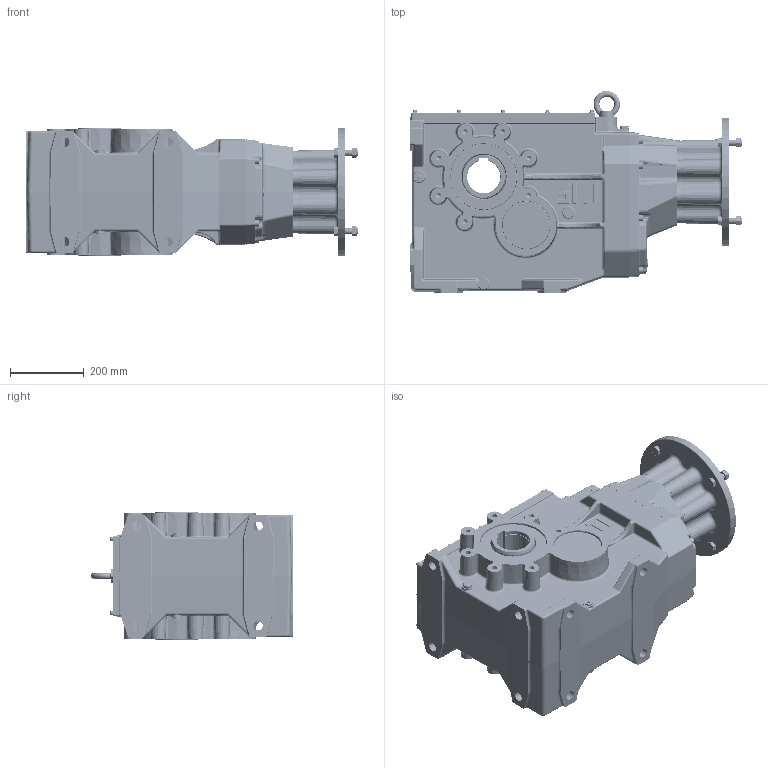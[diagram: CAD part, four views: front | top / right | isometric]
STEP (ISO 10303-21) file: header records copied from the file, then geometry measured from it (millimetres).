
FILE_DESCRIPTION((''),'2;1');
FILE_NAME('O:\Figurini\Figurini BH\3D\160\MBHGC 160 C GR 180 B5.stp','2013-05-20T10:31:36',('d.iannaccio'),(''),'Autodesk Inventor 2012','Autodesk Inventor 2012','');
FILE_SCHEMA(('AUTOMOTIVE_DESIGN { 1 0 10303 214 1 1 1 1 }'));
Length unit declared in the file: millimetre
Products named in the file (1): MBHGC_160 C GR 180 B5
Bounding box: 901 x 547.98 x 350 mm (x, y, z)
Volume: 26121352.7 mm3; surface area: 3792891.1 mm2
Topology: 66 solids, 68 shells, 4427 faces, 10591 edges, 6281 vertices
Faces by surface type: cylinder 1252, plane 1190, bspline 818, cone 539, torus 521, sphere 107
Full cylindrical faces by diameter (mm): 1.5 x1, 3.15 x2, 3.5 x2, 4.917 x12, 6 x24, 6.4 x12, 6.647 x1, 7 x12, 8 x1, 10 x12, 10.106 x16, 11 x2, 12 x30, 12.5 x14, 13 x16, 13.835 x14, 14.95 x8, 16 x8, 17.294 x3, 18 x16, 18.5 x4, 20.5 x16, 22 x1, 22.49 x4, 24 x1, 25 x1, 25.08 x1, 26 x9, 30 x5, 37.1 x1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
Entity records: 163595 total; most frequent: CARTESIAN_POINT 64473, DIRECTION 19479, ORIENTED_EDGE 19180, EDGE_CURVE 9590, AXIS2_PLACEMENT_3D 8250, VERTEX_POINT 6017, EDGE_LOOP 5292, STYLED_ITEM 4492
